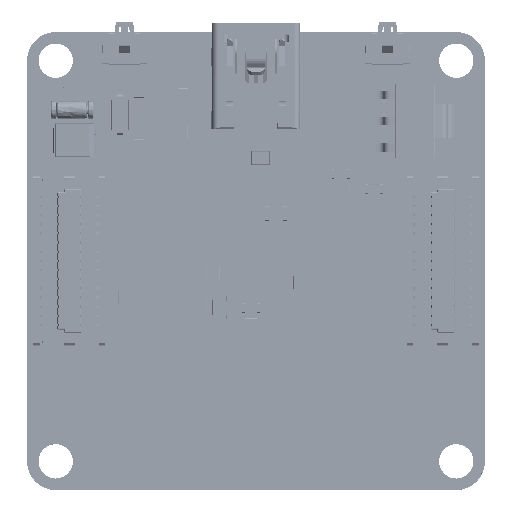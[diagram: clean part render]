
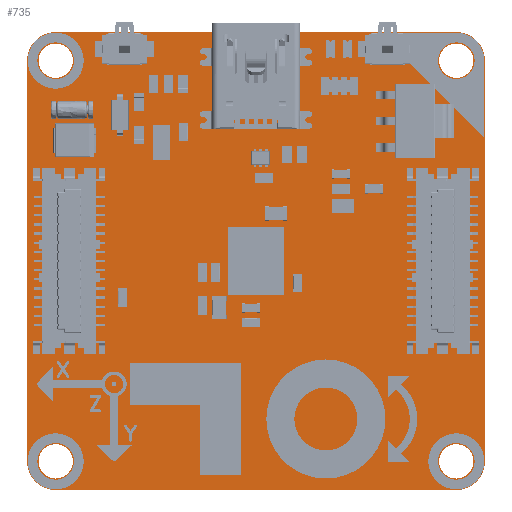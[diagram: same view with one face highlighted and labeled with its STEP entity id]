
A CAD part, top view. The second image highlights one B-rep face of the part: STEP entity #735.
In plain terms, the highlighted planar face has unit normal (0, 0, 1).
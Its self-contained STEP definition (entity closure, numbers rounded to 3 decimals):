
#22 = VERTEX_POINT('',#23);
#23 = CARTESIAN_POINT('',(17.5,20.,0.));
#40 = VERTEX_POINT('',#41);
#41 = CARTESIAN_POINT('',(-17.5,20.,0.));
#47 = EDGE_CURVE('',#22,#40,#48,.T.);
#48 = LINE('',#49,#50);
#49 = CARTESIAN_POINT('',(17.5,20.,0.));
#50 = VECTOR('',#51,1.);
#51 = DIRECTION('',(-1.,0.,0.));
#62 = VERTEX_POINT('',#63);
#63 = CARTESIAN_POINT('',(20.,17.5,0.));
#79 = EDGE_CURVE('',#62,#22,#80,.T.);
#80 = CIRCLE('',#81,2.5);
#81 = AXIS2_PLACEMENT_3D('',#82,#83,#84);
#82 = CARTESIAN_POINT('',(17.5,17.5,0.));
#83 = DIRECTION('',(0.,0.,1.));
#84 = DIRECTION('',(1.,0.,0.));
#105 = VERTEX_POINT('',#106);
#106 = CARTESIAN_POINT('',(-20.,17.5,0.));
#112 = EDGE_CURVE('',#40,#105,#113,.T.);
#113 = CIRCLE('',#114,2.5);
#114 = AXIS2_PLACEMENT_3D('',#115,#116,#117);
#115 = CARTESIAN_POINT('',(-17.5,17.5,0.));
#116 = DIRECTION('',(0.,0.,1.));
#117 = DIRECTION('',(1.,0.,0.));
#128 = VERTEX_POINT('',#129);
#129 = CARTESIAN_POINT('',(20.,-17.5,0.));
#144 = EDGE_CURVE('',#128,#62,#145,.T.);
#145 = LINE('',#146,#147);
#146 = CARTESIAN_POINT('',(20.,-17.5,0.));
#147 = VECTOR('',#148,1.);
#148 = DIRECTION('',(0.,1.,0.));
#168 = VERTEX_POINT('',#169);
#169 = CARTESIAN_POINT('',(-20.,-17.5,0.));
#175 = EDGE_CURVE('',#105,#168,#176,.T.);
#176 = LINE('',#177,#178);
#177 = CARTESIAN_POINT('',(-20.,17.5,0.));
#178 = VECTOR('',#179,1.);
#179 = DIRECTION('',(0.,-1.,0.));
#190 = VERTEX_POINT('',#191);
#191 = CARTESIAN_POINT('',(17.5,-20.,0.));
#207 = EDGE_CURVE('',#190,#128,#208,.T.);
#208 = CIRCLE('',#209,2.5);
#209 = AXIS2_PLACEMENT_3D('',#210,#211,#212);
#210 = CARTESIAN_POINT('',(17.5,-17.5,0.));
#211 = DIRECTION('',(0.,0.,1.));
#212 = DIRECTION('',(1.,0.,0.));
#233 = VERTEX_POINT('',#234);
#234 = CARTESIAN_POINT('',(-17.5,-20.,0.));
#240 = EDGE_CURVE('',#168,#233,#241,.T.);
#241 = CIRCLE('',#242,2.5);
#242 = AXIS2_PLACEMENT_3D('',#243,#244,#245);
#243 = CARTESIAN_POINT('',(-17.5,-17.5,0.));
#244 = DIRECTION('',(0.,0.,1.));
#245 = DIRECTION('',(1.,0.,0.));
#263 = EDGE_CURVE('',#233,#190,#264,.T.);
#264 = LINE('',#265,#266);
#265 = CARTESIAN_POINT('',(-17.5,-20.,0.));
#266 = VECTOR('',#267,1.);
#267 = DIRECTION('',(1.,0.,0.));
#278 = VERTEX_POINT('',#279);
#279 = CARTESIAN_POINT('',(18.399,-7.6,0.));
#295 = EDGE_CURVE('',#278,#278,#296,.T.);
#296 = CIRCLE('',#297,0.4);
#297 = AXIS2_PLACEMENT_3D('',#298,#299,#300);
#298 = CARTESIAN_POINT('',(17.999,-7.6,0.));
#299 = DIRECTION('',(0.,0.,1.));
#300 = DIRECTION('',(1.,0.,0.));
#311 = VERTEX_POINT('',#312);
#312 = CARTESIAN_POINT('',(18.399,7.6,0.));
#328 = EDGE_CURVE('',#311,#311,#329,.T.);
#329 = CIRCLE('',#330,0.4);
#330 = AXIS2_PLACEMENT_3D('',#331,#332,#333);
#331 = CARTESIAN_POINT('',(17.999,7.6,0.));
#332 = DIRECTION('',(0.,0.,1.));
#333 = DIRECTION('',(1.,0.,0.));
#344 = VERTEX_POINT('',#345);
#345 = CARTESIAN_POINT('',(-1.75,14.75,0.));
#361 = EDGE_CURVE('',#344,#344,#362,.T.);
#362 = CIRCLE('',#363,0.45);
#363 = AXIS2_PLACEMENT_3D('',#364,#365,#366);
#364 = CARTESIAN_POINT('',(-2.2,14.75,0.));
#365 = DIRECTION('',(0.,0.,1.));
#366 = DIRECTION('',(1.,0.,0.));
#377 = VERTEX_POINT('',#378);
#378 = CARTESIAN_POINT('',(2.649,14.75,0.));
#394 = EDGE_CURVE('',#377,#377,#395,.T.);
#395 = CIRCLE('',#396,0.45);
#396 = AXIS2_PLACEMENT_3D('',#397,#398,#399);
#397 = CARTESIAN_POINT('',(2.2,14.75,0.));
#398 = DIRECTION('',(0.,0.,1.));
#399 = DIRECTION('',(1.,0.,0.));
#410 = VERTEX_POINT('',#411);
#411 = CARTESIAN_POINT('',(11.899,17.602,0.));
#427 = EDGE_CURVE('',#410,#410,#428,.T.);
#428 = CIRCLE('',#429,0.4);
#429 = AXIS2_PLACEMENT_3D('',#430,#431,#432);
#430 = CARTESIAN_POINT('',(11.499,17.602,0.));
#431 = DIRECTION('',(0.,0.,1.));
#432 = DIRECTION('',(1.,0.,0.));
#443 = VERTEX_POINT('',#444);
#444 = CARTESIAN_POINT('',(18.999,17.5,0.));
#460 = EDGE_CURVE('',#443,#443,#461,.T.);
#461 = CIRCLE('',#462,1.5);
#462 = AXIS2_PLACEMENT_3D('',#463,#464,#465);
#463 = CARTESIAN_POINT('',(17.499,17.5,0.));
#464 = DIRECTION('',(0.,0.,1.));
#465 = DIRECTION('',(1.,0.,0.));
#476 = VERTEX_POINT('',#477);
#477 = CARTESIAN_POINT('',(-11.1,17.602,0.));
#493 = EDGE_CURVE('',#476,#476,#494,.T.);
#494 = CIRCLE('',#495,0.4);
#495 = AXIS2_PLACEMENT_3D('',#496,#497,#498);
#496 = CARTESIAN_POINT('',(-11.5,17.602,0.));
#497 = DIRECTION('',(0.,0.,1.));
#498 = DIRECTION('',(1.,0.,0.));
#509 = VERTEX_POINT('',#510);
#510 = CARTESIAN_POINT('',(18.999,-17.501,0.));
#526 = EDGE_CURVE('',#509,#509,#527,.T.);
#527 = CIRCLE('',#528,1.5);
#528 = AXIS2_PLACEMENT_3D('',#529,#530,#531);
#529 = CARTESIAN_POINT('',(17.499,-17.501,0.));
#530 = DIRECTION('',(0.,0.,1.));
#531 = DIRECTION('',(1.,0.,0.));
#542 = VERTEX_POINT('',#543);
#543 = CARTESIAN_POINT('',(-11.1,19.4,0.));
#559 = EDGE_CURVE('',#542,#542,#560,.T.);
#560 = CIRCLE('',#561,0.4);
#561 = AXIS2_PLACEMENT_3D('',#562,#563,#564);
#562 = CARTESIAN_POINT('',(-11.5,19.4,0.));
#563 = DIRECTION('',(0.,0.,1.));
#564 = DIRECTION('',(1.,0.,0.));
#575 = VERTEX_POINT('',#576);
#576 = CARTESIAN_POINT('',(11.899,19.4,0.));
#592 = EDGE_CURVE('',#575,#575,#593,.T.);
#593 = CIRCLE('',#594,0.4);
#594 = AXIS2_PLACEMENT_3D('',#595,#596,#597);
#595 = CARTESIAN_POINT('',(11.499,19.4,0.));
#596 = DIRECTION('',(0.,0.,1.));
#597 = DIRECTION('',(1.,0.,0.));
#608 = VERTEX_POINT('',#609);
#609 = CARTESIAN_POINT('',(-14.202,7.6,0.));
#625 = EDGE_CURVE('',#608,#608,#626,.T.);
#626 = CIRCLE('',#627,0.4);
#627 = AXIS2_PLACEMENT_3D('',#628,#629,#630);
#628 = CARTESIAN_POINT('',(-14.602,7.6,0.));
#629 = DIRECTION('',(0.,0.,1.));
#630 = DIRECTION('',(1.,0.,0.));
#641 = VERTEX_POINT('',#642);
#642 = CARTESIAN_POINT('',(-14.202,-7.6,0.));
#658 = EDGE_CURVE('',#641,#641,#659,.T.);
#659 = CIRCLE('',#660,0.4);
#660 = AXIS2_PLACEMENT_3D('',#661,#662,#663);
#661 = CARTESIAN_POINT('',(-14.602,-7.6,0.));
#662 = DIRECTION('',(0.,0.,1.));
#663 = DIRECTION('',(1.,0.,0.));
#674 = VERTEX_POINT('',#675);
#675 = CARTESIAN_POINT('',(-16.,17.5,0.));
#691 = EDGE_CURVE('',#674,#674,#692,.T.);
#692 = CIRCLE('',#693,1.5);
#693 = AXIS2_PLACEMENT_3D('',#694,#695,#696);
#694 = CARTESIAN_POINT('',(-17.5,17.5,0.));
#695 = DIRECTION('',(0.,0.,1.));
#696 = DIRECTION('',(1.,0.,0.));
#707 = VERTEX_POINT('',#708);
#708 = CARTESIAN_POINT('',(-16.,-17.5,0.));
#724 = EDGE_CURVE('',#707,#707,#725,.T.);
#725 = CIRCLE('',#726,1.5);
#726 = AXIS2_PLACEMENT_3D('',#727,#728,#729);
#727 = CARTESIAN_POINT('',(-17.5,-17.5,0.));
#728 = DIRECTION('',(0.,0.,1.));
#729 = DIRECTION('',(1.,0.,0.));
#735 = ADVANCED_FACE('',(#736,#746,#749,#752,#755,#758,#761,#764,#767,
    #770,#773,#776,#779,#782,#785),#788,.T.);
#736 = FACE_BOUND('',#737,.T.);
#737 = EDGE_LOOP('',(#738,#739,#740,#741,#742,#743,#744,#745));
#738 = ORIENTED_EDGE('',*,*,#47,.T.);
#739 = ORIENTED_EDGE('',*,*,#112,.T.);
#740 = ORIENTED_EDGE('',*,*,#175,.T.);
#741 = ORIENTED_EDGE('',*,*,#240,.T.);
#742 = ORIENTED_EDGE('',*,*,#263,.T.);
#743 = ORIENTED_EDGE('',*,*,#207,.T.);
#744 = ORIENTED_EDGE('',*,*,#144,.T.);
#745 = ORIENTED_EDGE('',*,*,#79,.T.);
#746 = FACE_BOUND('',#747,.T.);
#747 = EDGE_LOOP('',(#748));
#748 = ORIENTED_EDGE('',*,*,#295,.F.);
#749 = FACE_BOUND('',#750,.T.);
#750 = EDGE_LOOP('',(#751));
#751 = ORIENTED_EDGE('',*,*,#328,.F.);
#752 = FACE_BOUND('',#753,.T.);
#753 = EDGE_LOOP('',(#754));
#754 = ORIENTED_EDGE('',*,*,#361,.F.);
#755 = FACE_BOUND('',#756,.T.);
#756 = EDGE_LOOP('',(#757));
#757 = ORIENTED_EDGE('',*,*,#394,.F.);
#758 = FACE_BOUND('',#759,.T.);
#759 = EDGE_LOOP('',(#760));
#760 = ORIENTED_EDGE('',*,*,#427,.F.);
#761 = FACE_BOUND('',#762,.T.);
#762 = EDGE_LOOP('',(#763));
#763 = ORIENTED_EDGE('',*,*,#460,.F.);
#764 = FACE_BOUND('',#765,.T.);
#765 = EDGE_LOOP('',(#766));
#766 = ORIENTED_EDGE('',*,*,#493,.F.);
#767 = FACE_BOUND('',#768,.T.);
#768 = EDGE_LOOP('',(#769));
#769 = ORIENTED_EDGE('',*,*,#526,.F.);
#770 = FACE_BOUND('',#771,.T.);
#771 = EDGE_LOOP('',(#772));
#772 = ORIENTED_EDGE('',*,*,#559,.F.);
#773 = FACE_BOUND('',#774,.T.);
#774 = EDGE_LOOP('',(#775));
#775 = ORIENTED_EDGE('',*,*,#592,.F.);
#776 = FACE_BOUND('',#777,.T.);
#777 = EDGE_LOOP('',(#778));
#778 = ORIENTED_EDGE('',*,*,#625,.F.);
#779 = FACE_BOUND('',#780,.T.);
#780 = EDGE_LOOP('',(#781));
#781 = ORIENTED_EDGE('',*,*,#658,.F.);
#782 = FACE_BOUND('',#783,.T.);
#783 = EDGE_LOOP('',(#784));
#784 = ORIENTED_EDGE('',*,*,#691,.F.);
#785 = FACE_BOUND('',#786,.T.);
#786 = EDGE_LOOP('',(#787));
#787 = ORIENTED_EDGE('',*,*,#724,.F.);
#788 = PLANE('',#789);
#789 = AXIS2_PLACEMENT_3D('',#790,#791,#792);
#790 = CARTESIAN_POINT('',(0.,0.,0.));
#791 = DIRECTION('',(0.,0.,1.));
#792 = DIRECTION('',(1.,0.,0.));
